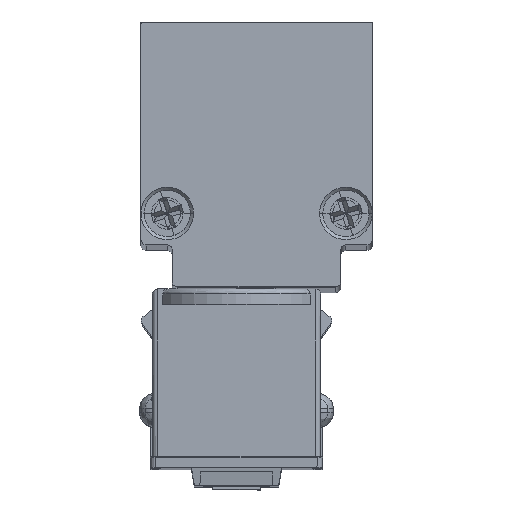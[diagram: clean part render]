
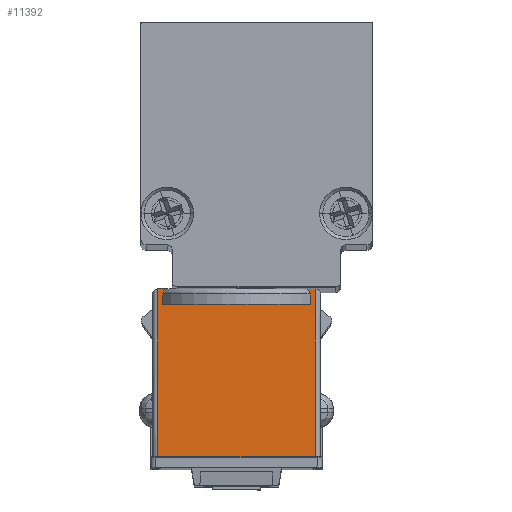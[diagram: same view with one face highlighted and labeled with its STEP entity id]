
A CAD part, top view. The second image highlights one B-rep face of the part: STEP entity #11392.
In plain terms, the highlighted planar face has unit normal (0, -0.009, 1) as drawn and (0, -1, -0.009) by its records, which use the part's own axes.
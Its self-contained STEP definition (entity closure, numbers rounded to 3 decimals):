
#908 = CARTESIAN_POINT ( 'NONE',  ( -47.497, -129.211, 14.058 ) ) ;
#1302 = CARTESIAN_POINT ( 'NONE',  ( -62.011, -129.211, 14.058 ) ) ;
#1607 = ORIENTED_EDGE ( 'NONE', *, *, #54746, .F. ) ;
#1695 = CARTESIAN_POINT ( 'NONE',  ( -61.56, -129.224, 15.564 ) ) ;
#1978 = EDGE_CURVE ( 'NONE', #41208, #4041, #37358, .T. ) ;
#2050 = CARTESIAN_POINT ( 'NONE',  ( -47.993, -129.216, 14.727 ) ) ;
#2322 = B_SPLINE_CURVE_WITH_KNOTS ( 'NONE', 3,
 ( #14699, #40791, #53817, #27757, #1695, #32172 ),
 .UNSPECIFIED., .F., .F.,
 ( 4, 2, 4 ),
 ( 0., 0., 0.001 ),
 .UNSPECIFIED. ) ;
#4041 = VERTEX_POINT ( 'NONE', #38933 ) ;
#4341 = VERTEX_POINT ( 'NONE', #47837 ) ;
#6058 = ORIENTED_EDGE ( 'NONE', *, *, #45442, .T. ) ;
#6463 = CARTESIAN_POINT ( 'NONE',  ( -47.989, -129.211, 14.058 ) ) ;
#6822 = CARTESIAN_POINT ( 'NONE',  ( -48.306, -129.223, 15.509 ) ) ;
#7223 = CARTESIAN_POINT ( 'NONE',  ( -55., -129.211, 14.058 ) ) ;
#9259 = FACE_OUTER_BOUND ( 'NONE', #42713, .T. ) ;
#10760 = ORIENTED_EDGE ( 'NONE', *, *, #38093, .F. ) ;
#10817 = CARTESIAN_POINT ( 'NONE',  ( -48.512, -129.224, 15.564 ) ) ;
#11183 = CARTESIAN_POINT ( 'NONE',  ( -48.129, -129.222, 15.388 ) ) ;
#11339 = CARTESIAN_POINT ( 'NONE',  ( -48.584, -129.224, 15.564 ) ) ;
#11392 = ADVANCED_FACE ( 'NONE', ( #9259 ), #37682, .T. ) ;
#11947 = VERTEX_POINT ( 'NONE', #33436 ) ;
#12484 = LINE ( 'NONE', #908, #34283 ) ;
#12873 = EDGE_CURVE ( 'NONE', #4041, #4341, #36554, .T. ) ;
#13377 = VECTOR ( 'NONE', #39676, 1000. ) ;
#13565 = CARTESIAN_POINT ( 'NONE',  ( -55., -129.211, 14.058 ) ) ;
#13609 = CARTESIAN_POINT ( 'NONE',  ( -55., -129.084, -0.5 ) ) ;
#14699 = CARTESIAN_POINT ( 'NONE',  ( -62.006, -129.219, 15.062 ) ) ;
#15567 = CARTESIAN_POINT ( 'NONE',  ( -48.013, -129.221, 15.205 ) ) ;
#15955 = DIRECTION ( 'NONE',  ( 0., 0.009, -1. ) ) ;
#17611 = EDGE_CURVE ( 'NONE', #48399, #36557, #33803, .T. ) ;
#17853 = ORIENTED_EDGE ( 'NONE', *, *, #1978, .T. ) ;
#18694 = EDGE_CURVE ( 'NONE', #41208, #11947, #41113, .T. ) ;
#19742 = EDGE_CURVE ( 'NONE', #51391, #36557, #41515, .T. ) ;
#19902 = CARTESIAN_POINT ( 'NONE',  ( -47.994, -129.219, 15.062 ) ) ;
#21423 = VERTEX_POINT ( 'NONE', #26045 ) ;
#21530 = CARTESIAN_POINT ( 'NONE',  ( -62.503, -129.224, 15.564 ) ) ;
#22592 = DIRECTION ( 'NONE',  ( 0., 0.009, -1. ) ) ;
#22869 = DIRECTION ( 'NONE',  ( 1., 0., 0. ) ) ;
#23083 = VECTOR ( 'NONE', #35240, 1000. ) ;
#23387 = ORIENTED_EDGE ( 'NONE', *, *, #17611, .F. ) ;
#23521 = CARTESIAN_POINT ( 'NONE',  ( -47.991, -129.214, 14.393 ) ) ;
#24404 = ORIENTED_EDGE ( 'NONE', *, *, #37342, .F. ) ;
#26045 = CARTESIAN_POINT ( 'NONE',  ( -47.497, -129.224, 15.564 ) ) ;
#27652 = ORIENTED_EDGE ( 'NONE', *, *, #34332, .T. ) ;
#27757 = CARTESIAN_POINT ( 'NONE',  ( -61.703, -129.223, 15.52 ) ) ;
#28381 = CARTESIAN_POINT ( 'NONE',  ( -62.011, -129.211, 14.058 ) ) ;
#30654 = AXIS2_PLACEMENT_3D ( 'NONE', #7223, #42089, #15955 ) ;
#31462 = ORIENTED_EDGE ( 'NONE', *, *, #12873, .T. ) ;
#32172 = CARTESIAN_POINT ( 'NONE',  ( -61.416, -129.224, 15.564 ) ) ;
#32342 = VERTEX_POINT ( 'NONE', #33008 ) ;
#32890 = CARTESIAN_POINT ( 'NONE',  ( -48.442, -129.224, 15.553 ) ) ;
#33008 = CARTESIAN_POINT ( 'NONE',  ( -62.006, -129.219, 15.062 ) ) ;
#33436 = CARTESIAN_POINT ( 'NONE',  ( -61.416, -129.224, 15.564 ) ) ;
#33803 =( BOUNDED_CURVE ( )  B_SPLINE_CURVE ( 3, ( #6463, #23521, #2050, #36925 ),
 .UNSPECIFIED., .F., .F. ) 
 B_SPLINE_CURVE_WITH_KNOTS ( ( 4, 4 ),
 ( 5.237, 5.239 ),
 .UNSPECIFIED. ) 
 CURVE ( )  GEOMETRIC_REPRESENTATION_ITEM ( )  RATIONAL_B_SPLINE_CURVE ( ( 1., 1., 1., 1. ) ) 
 REPRESENTATION_ITEM ( '' )  );
#33907 = VECTOR ( 'NONE', #48838, 1000. ) ;
#34283 = VECTOR ( 'NONE', #22592, 1000. ) ;
#34332 = EDGE_CURVE ( 'NONE', #32342, #11947, #2322, .T. ) ;
#34708 = LINE ( 'NONE', #13565, #23083 ) ;
#35074 = DIRECTION ( 'NONE',  ( 0., 0.009, -1. ) ) ;
#35240 = DIRECTION ( 'NONE',  ( -1., 0., 0. ) ) ;
#35265 = LINE ( 'NONE', #44506, #33907 ) ;
#36554 = LINE ( 'NONE', #13609, #13377 ) ;
#36557 = VERTEX_POINT ( 'NONE', #43462 ) ;
#36925 = CARTESIAN_POINT ( 'NONE',  ( -47.994, -129.219, 15.062 ) ) ;
#37284 = CARTESIAN_POINT ( 'NONE',  ( -48.241, -129.223, 15.476 ) ) ;
#37342 = EDGE_CURVE ( 'NONE', #51391, #21423, #35265, .T. ) ;
#37358 = LINE ( 'NONE', #43659, #47501 ) ;
#37682 = PLANE ( 'NONE',  #30654 ) ;
#38093 = EDGE_CURVE ( 'NONE', #32342, #46975, #52137, .T. ) ;
#38933 = CARTESIAN_POINT ( 'NONE',  ( -62.503, -129.084, -0.5 ) ) ;
#39676 = DIRECTION ( 'NONE',  ( 1., 0., 0. ) ) ;
#40791 = CARTESIAN_POINT ( 'NONE',  ( -62.005, -129.221, 15.207 ) ) ;
#41113 = LINE ( 'NONE', #48959, #42461 ) ;
#41208 = VERTEX_POINT ( 'NONE', #21530 ) ;
#41515 = B_SPLINE_CURVE_WITH_KNOTS ( 'NONE', 3,
 ( #54510, #10817, #32890, #6822, #37284, #11183, #41674, #15567, #45995, #19902 ),
 .UNSPECIFIED., .F., .F.,
 ( 4, 2, 2, 2, 4 ),
 ( 0., 0., 0., 0.001, 0.001 ),
 .UNSPECIFIED. ) ;
#41674 = CARTESIAN_POINT ( 'NONE',  ( -48.081, -129.222, 15.333 ) ) ;
#42089 = DIRECTION ( 'NONE',  ( 0., -1., -0.009 ) ) ;
#42461 = VECTOR ( 'NONE', #22869, 1000. ) ;
#42713 = EDGE_LOOP ( 'NONE', ( #51903, #17853, #31462, #1607, #24404, #48964, #23387, #6058, #10760, #27652 ) ) ;
#43462 = CARTESIAN_POINT ( 'NONE',  ( -47.994, -129.219, 15.062 ) ) ;
#43659 = CARTESIAN_POINT ( 'NONE',  ( -62.503, -129.211, 14.058 ) ) ;
#44506 = CARTESIAN_POINT ( 'NONE',  ( -55., -129.224, 15.564 ) ) ;
#45442 = EDGE_CURVE ( 'NONE', #48399, #46975, #34708, .T. ) ;
#45734 = CARTESIAN_POINT ( 'NONE',  ( -62.006, -129.219, 15.062 ) ) ;
#45995 = CARTESIAN_POINT ( 'NONE',  ( -47.995, -129.22, 15.135 ) ) ;
#46975 = VERTEX_POINT ( 'NONE', #1302 ) ;
#47501 = VECTOR ( 'NONE', #35074, 1000. ) ;
#47837 = CARTESIAN_POINT ( 'NONE',  ( -47.497, -129.084, -0.5 ) ) ;
#48399 = VERTEX_POINT ( 'NONE', #54962 ) ;
#48838 = DIRECTION ( 'NONE',  ( 1., 0., 0. ) ) ;
#48959 = CARTESIAN_POINT ( 'NONE',  ( -55., -129.224, 15.564 ) ) ;
#48964 = ORIENTED_EDGE ( 'NONE', *, *, #19742, .T. ) ;
#49885 = CARTESIAN_POINT ( 'NONE',  ( -62.007, -129.216, 14.727 ) ) ;
#51391 = VERTEX_POINT ( 'NONE', #11339 ) ;
#51903 = ORIENTED_EDGE ( 'NONE', *, *, #18694, .F. ) ;
#52137 =( BOUNDED_CURVE ( )  B_SPLINE_CURVE ( 3, ( #45734, #49885, #54435, #28381 ),
 .UNSPECIFIED., .F., .T. ) 
 B_SPLINE_CURVE_WITH_KNOTS ( ( 4, 4 ),
 ( 1.045, 1.046 ),
 .UNSPECIFIED. ) 
 CURVE ( )  GEOMETRIC_REPRESENTATION_ITEM ( )  RATIONAL_B_SPLINE_CURVE ( ( 1., 1., 1., 1. ) ) 
 REPRESENTATION_ITEM ( '' )  );
#53817 = CARTESIAN_POINT ( 'NONE',  ( -61.928, -129.222, 15.343 ) ) ;
#54435 = CARTESIAN_POINT ( 'NONE',  ( -62.009, -129.214, 14.393 ) ) ;
#54510 = CARTESIAN_POINT ( 'NONE',  ( -48.584, -129.224, 15.564 ) ) ;
#54746 = EDGE_CURVE ( 'NONE', #21423, #4341, #12484, .T. ) ;
#54962 = CARTESIAN_POINT ( 'NONE',  ( -47.989, -129.211, 14.058 ) ) ;
